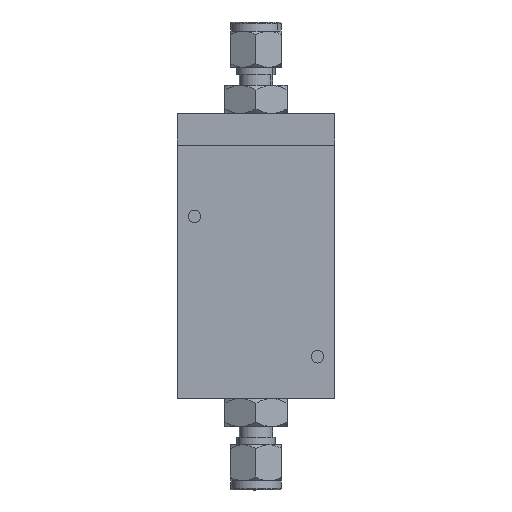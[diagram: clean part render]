
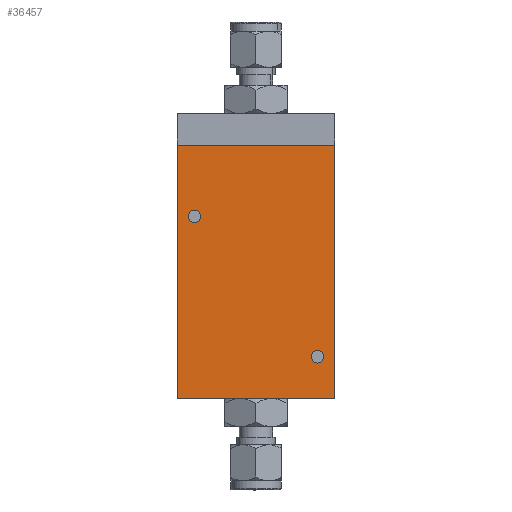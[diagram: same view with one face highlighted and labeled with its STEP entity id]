
A CAD part, front view. The second image highlights one B-rep face of the part: STEP entity #36457.
In plain terms, the highlighted planar face has unit normal (0, -1, 0).
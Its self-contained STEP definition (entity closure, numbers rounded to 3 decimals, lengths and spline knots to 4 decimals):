
#1821 = DIRECTION ( 'NONE',  ( 0., 0., 1. ) ) ;
#2439 = DIRECTION ( 'NONE',  ( 0., 1., 0. ) ) ;
#3119 = DIRECTION ( 'NONE',  ( 0., 0., -1. ) ) ;
#3296 = CIRCLE ( 'NONE', #51123, 0.0693 ) ;
#4738 = AXIS2_PLACEMENT_3D ( 'NONE', #58934, #30178, #48549 ) ;
#5825 = CARTESIAN_POINT ( 'NONE',  ( -0.6795, 0., 0.5073 ) ) ;
#6280 = VERTEX_POINT ( 'NONE', #21017 ) ;
#7578 = EDGE_CURVE ( 'NONE', #6280, #13317, #9977, .T. ) ;
#7604 = CARTESIAN_POINT ( 'NONE',  ( -0.6795, 0., 0.3687 ) ) ;
#7852 = EDGE_LOOP ( 'NONE', ( #51298, #12716 ) ) ;
#9977 = LINE ( 'NONE', #14870, #42819 ) ;
#10604 = VECTOR ( 'NONE', #31621, 39.3701 ) ;
#10787 = FACE_OUTER_BOUND ( 'NONE', #30859, .T. ) ;
#10966 = CIRCLE ( 'NONE', #45127, 0.0693 ) ;
#12698 = CARTESIAN_POINT ( 'NONE',  ( -0.6795, 0., 0.438 ) ) ;
#12716 = ORIENTED_EDGE ( 'NONE', *, *, #20895, .T. ) ;
#13317 = VERTEX_POINT ( 'NONE', #30230 ) ;
#13503 = CARTESIAN_POINT ( 'NONE',  ( 0.8695, 0., 1.225 ) ) ;
#14870 = CARTESIAN_POINT ( 'NONE',  ( 0., 0., -1.575 ) ) ;
#15225 = EDGE_LOOP ( 'NONE', ( #52382, #56664 ) ) ;
#16641 = ORIENTED_EDGE ( 'NONE', *, *, #33100, .T. ) ;
#16734 = ORIENTED_EDGE ( 'NONE', *, *, #21045, .F. ) ;
#16975 = EDGE_CURVE ( 'NONE', #24574, #41132, #41277, .T. ) ;
#18471 = LINE ( 'NONE', #59756, #10604 ) ;
#18791 = CARTESIAN_POINT ( 'NONE',  ( 0.6795, 0., -1.0437 ) ) ;
#20895 = EDGE_CURVE ( 'NONE', #21087, #36803, #3296, .T. ) ;
#21017 = CARTESIAN_POINT ( 'NONE',  ( 0.8695, 0., -1.575 ) ) ;
#21045 = EDGE_CURVE ( 'NONE', #30405, #43654, #59885, .T. ) ;
#21087 = VERTEX_POINT ( 'NONE', #7604 ) ;
#22133 = ORIENTED_EDGE ( 'NONE', *, *, #34456, .T. ) ;
#24249 = CARTESIAN_POINT ( 'NONE',  ( 0.6795, 0., -1.1823 ) ) ;
#24574 = VERTEX_POINT ( 'NONE', #18791 ) ;
#24856 = FACE_BOUND ( 'NONE', #7852, .T. ) ;
#25135 = DIRECTION ( 'NONE',  ( 0., 0., -1. ) ) ;
#26553 = CARTESIAN_POINT ( 'NONE',  ( 0., 0., 1.225 ) ) ;
#29730 = DIRECTION ( 'NONE',  ( 0., -1., 0. ) ) ;
#30178 = DIRECTION ( 'NONE',  ( 0., 1., 0. ) ) ;
#30230 = CARTESIAN_POINT ( 'NONE',  ( -0.8695, 0., -1.575 ) ) ;
#30405 = VERTEX_POINT ( 'NONE', #54585 ) ;
#30859 = EDGE_LOOP ( 'NONE', ( #56455, #22133, #16734, #16641 ) ) ;
#31621 = DIRECTION ( 'NONE',  ( 0., 0., 1. ) ) ;
#33100 = EDGE_CURVE ( 'NONE', #30405, #13317, #34622, .T. ) ;
#34316 = PLANE ( 'NONE',  #52586 ) ;
#34456 = EDGE_CURVE ( 'NONE', #6280, #43654, #18471, .T. ) ;
#34622 = LINE ( 'NONE', #53279, #48524 ) ;
#35078 = EDGE_CURVE ( 'NONE', #41132, #24574, #52624, .T. ) ;
#36457 = ADVANCED_FACE ( 'NONE', ( #10787, #24856, #43504 ), #34316, .T. ) ;
#36803 = VERTEX_POINT ( 'NONE', #5825 ) ;
#41132 = VERTEX_POINT ( 'NONE', #24249 ) ;
#41234 = DIRECTION ( 'NONE',  ( 1., 0., 0. ) ) ;
#41277 = CIRCLE ( 'NONE', #58867, 0.0693 ) ;
#42819 = VECTOR ( 'NONE', #43293, 39.3701 ) ;
#43293 = DIRECTION ( 'NONE',  ( -1., 0., 0. ) ) ;
#43504 = FACE_BOUND ( 'NONE', #15225, .T. ) ;
#43654 = VERTEX_POINT ( 'NONE', #13503 ) ;
#43991 = CARTESIAN_POINT ( 'NONE',  ( -0.6795, 0., 0.438 ) ) ;
#44508 = DIRECTION ( 'NONE',  ( 0., 1., 0. ) ) ;
#45127 = AXIS2_PLACEMENT_3D ( 'NONE', #12698, #44508, #58890 ) ;
#46172 = CARTESIAN_POINT ( 'NONE',  ( 0.6795, 0., -1.113 ) ) ;
#46468 = DIRECTION ( 'NONE',  ( 0., 1., 0. ) ) ;
#48524 = VECTOR ( 'NONE', #25135, 39.3701 ) ;
#48549 = DIRECTION ( 'NONE',  ( 0., 0., 1. ) ) ;
#50154 = DIRECTION ( 'NONE',  ( 0., 0., 1. ) ) ;
#50998 = VECTOR ( 'NONE', #41234, 39.3701 ) ;
#51123 = AXIS2_PLACEMENT_3D ( 'NONE', #43991, #2439, #1821 ) ;
#51298 = ORIENTED_EDGE ( 'NONE', *, *, #58799, .T. ) ;
#52382 = ORIENTED_EDGE ( 'NONE', *, *, #16975, .T. ) ;
#52586 = AXIS2_PLACEMENT_3D ( 'NONE', #52979, #29730, #3119 ) ;
#52624 = CIRCLE ( 'NONE', #4738, 0.0693 ) ;
#52979 = CARTESIAN_POINT ( 'NONE',  ( 0., 0., -0.175 ) ) ;
#53279 = CARTESIAN_POINT ( 'NONE',  ( -0.8695, 0., -0.175 ) ) ;
#54585 = CARTESIAN_POINT ( 'NONE',  ( -0.8695, 0., 1.225 ) ) ;
#56455 = ORIENTED_EDGE ( 'NONE', *, *, #7578, .F. ) ;
#56664 = ORIENTED_EDGE ( 'NONE', *, *, #35078, .T. ) ;
#58799 = EDGE_CURVE ( 'NONE', #36803, #21087, #10966, .T. ) ;
#58867 = AXIS2_PLACEMENT_3D ( 'NONE', #46172, #46468, #50154 ) ;
#58890 = DIRECTION ( 'NONE',  ( 0., 0., 1. ) ) ;
#58934 = CARTESIAN_POINT ( 'NONE',  ( 0.6795, 0., -1.113 ) ) ;
#59756 = CARTESIAN_POINT ( 'NONE',  ( 0.8695, 0., -0.175 ) ) ;
#59885 = LINE ( 'NONE', #26553, #50998 ) ;
